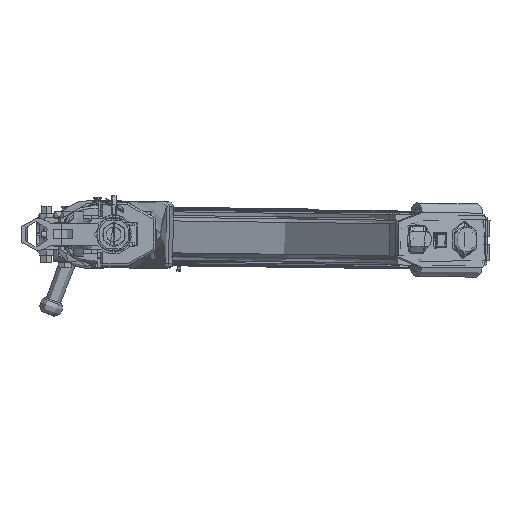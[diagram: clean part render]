
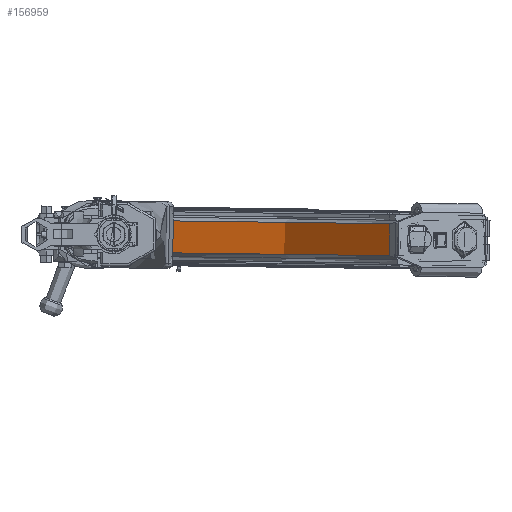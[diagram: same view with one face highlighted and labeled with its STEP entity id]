
A CAD part, left-side view. The second image highlights one B-rep face of the part: STEP entity #156959.
In plain terms, the highlighted cylindrical face has radius 186.336 mm (diameter 372.671 mm), a partial arc.
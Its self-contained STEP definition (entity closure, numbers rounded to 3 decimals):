
#276 = DIRECTION ( 'NONE',  ( -1., 0., 0. ) ) ;
#8669 = CARTESIAN_POINT ( 'NONE',  ( -3.347, -0.31, -79.356 ) ) ;
#20977 = VERTEX_POINT ( 'NONE', #126436 ) ;
#21944 = CARTESIAN_POINT ( 'NONE',  ( -20.472, 5.1, 69.188 ) ) ;
#24501 = CARTESIAN_POINT ( 'NONE',  ( -20.472, 7.748, -60.589 ) ) ;
#25834 = FACE_OUTER_BOUND ( 'NONE', #98919, .T. ) ;
#30156 = VECTOR ( 'NONE', #97448, 1000. ) ;
#37925 = CARTESIAN_POINT ( 'NONE',  ( -20.472, -0.309, -79.356 ) ) ;
#38534 = CARTESIAN_POINT ( 'NONE',  ( -20.472, 17.032, -22.508 ) ) ;
#43814 = DIRECTION ( 'NONE',  ( -1., 0., 0. ) ) ;
#50164 = CARTESIAN_POINT ( 'NONE',  ( -3.347, 9.549, 56.906 ) ) ;
#52613 = CARTESIAN_POINT ( 'NONE',  ( -20.472, 17.479, 20.957 ) ) ;
#53796 = ORIENTED_EDGE ( 'NONE', *, *, #163451, .F. ) ;
#57233 = CARTESIAN_POINT ( 'NONE',  ( -12., -168.364, 1.134 ) ) ;
#63601 = CARTESIAN_POINT ( 'NONE',  ( -3.347, 7.483, 63.109 ) ) ;
#64200 = CARTESIAN_POINT ( 'NONE',  ( -3.347, 17.879, 18.511 ) ) ;
#66604 = CARTESIAN_POINT ( 'NONE',  ( -20.472, 9.41, 58.197 ) ) ;
#67257 = LINE ( 'NONE', #96836, #30156 ) ;
#69858 = CARTESIAN_POINT ( 'NONE',  ( -3.347, -0.309, -79.356 ) ) ;
#76778 = EDGE_CURVE ( 'NONE', #89835, #20977, #117712, .T. ) ;
#78237 = CARTESIAN_POINT ( 'NONE',  ( -3.347, 15.985, -30.551 ) ) ;
#81011 = EDGE_CURVE ( 'NONE', #149771, #160718, #67257, .T. ) ;
#81121 = CARTESIAN_POINT ( 'NONE',  ( -3.347, -0.31, -79.356 ) ) ;
#85033 = VECTOR ( 'NONE', #276, 1000. ) ;
#89835 = VERTEX_POINT ( 'NONE', #81121 ) ;
#90067 = CARTESIAN_POINT ( 'NONE',  ( -3.347, 5.099, 69.187 ) ) ;
#92233 = CARTESIAN_POINT ( 'NONE',  ( -3.347, 4.757, -68.771 ) ) ;
#96606 = ORIENTED_EDGE ( 'NONE', *, *, #81011, .F. ) ;
#96836 = CARTESIAN_POINT ( 'NONE',  ( -1.472, 5.1, 69.188 ) ) ;
#97448 = DIRECTION ( 'NONE',  ( 1., 0., 0. ) ) ;
#98118 = AXIS2_PLACEMENT_3D ( 'NONE', #57233, #43814, #113904 ) ;
#98919 = EDGE_LOOP ( 'NONE', ( #158362, #96606, #53796, #144305 ) ) ;
#102338 = EDGE_CURVE ( 'NONE', #160718, #89835, #115994, .T. ) ;
#113904 = DIRECTION ( 'NONE',  ( 0., -1., 0. ) ) ;
#115994 = B_SPLINE_CURVE_WITH_KNOTS ( 'NONE', 3,
 ( #119671, #63601, #50164, #147699, #64200, #161693, #78237, #175683, #92233, #8669 ),
 .UNSPECIFIED., .F., .F.,
 ( 4, 2, 2, 2, 4 ),
 ( 0., 0.128, 0.449, 0.77, 1. ),
 .UNSPECIFIED. ) ;
#117712 = LINE ( 'NONE', #69858, #85033 ) ;
#119671 = CARTESIAN_POINT ( 'NONE',  ( -3.347, 5.099, 69.187 ) ) ;
#121478 = CARTESIAN_POINT ( 'NONE',  ( -20.472, 4.097, -70.153 ) ) ;
#122090 = CARTESIAN_POINT ( 'NONE',  ( -20.472, 14.626, -36.885 ) ) ;
#126436 = CARTESIAN_POINT ( 'NONE',  ( -20.472, -0.309, -79.356 ) ) ;
#136073 = CARTESIAN_POINT ( 'NONE',  ( -20.472, 18.459, 6.413 ) ) ;
#144305 = ORIENTED_EDGE ( 'NONE', *, *, #76778, .F. ) ;
#147699 = CARTESIAN_POINT ( 'NONE',  ( -3.347, 15.625, 34.848 ) ) ;
#149771 = VERTEX_POINT ( 'NONE', #21944 ) ;
#150116 = CARTESIAN_POINT ( 'NONE',  ( -20.472, 12.675, 46.798 ) ) ;
#156727 = CYLINDRICAL_SURFACE ( 'NONE', #98118, 186.336 ) ;
#156959 = ADVANCED_FACE ( 'NONE', ( #25834 ), #156727, .F. ) ;
#158362 = ORIENTED_EDGE ( 'NONE', *, *, #102338, .F. ) ;
#160718 = VERTEX_POINT ( 'NONE', #90067 ) ;
#161693 = CARTESIAN_POINT ( 'NONE',  ( -3.347, 18.059, -14.19 ) ) ;
#163451 = EDGE_CURVE ( 'NONE', #20977, #149771, #170401, .T. ) ;
#164124 = CARTESIAN_POINT ( 'NONE',  ( -20.472, 5.1, 69.188 ) ) ;
#170401 = B_SPLINE_CURVE_WITH_KNOTS ( 'NONE', 3,
 ( #37925, #121478, #24501, #122090, #38534, #136073, #52613, #150116, #66604, #164124 ),
 .UNSPECIFIED., .F., .F.,
 ( 4, 2, 2, 2, 4 ),
 ( 0., 0.2, 0.484, 0.768, 1. ),
 .UNSPECIFIED. ) ;
#175683 = CARTESIAN_POINT ( 'NONE',  ( -3.347, 8.826, -57.709 ) ) ;
